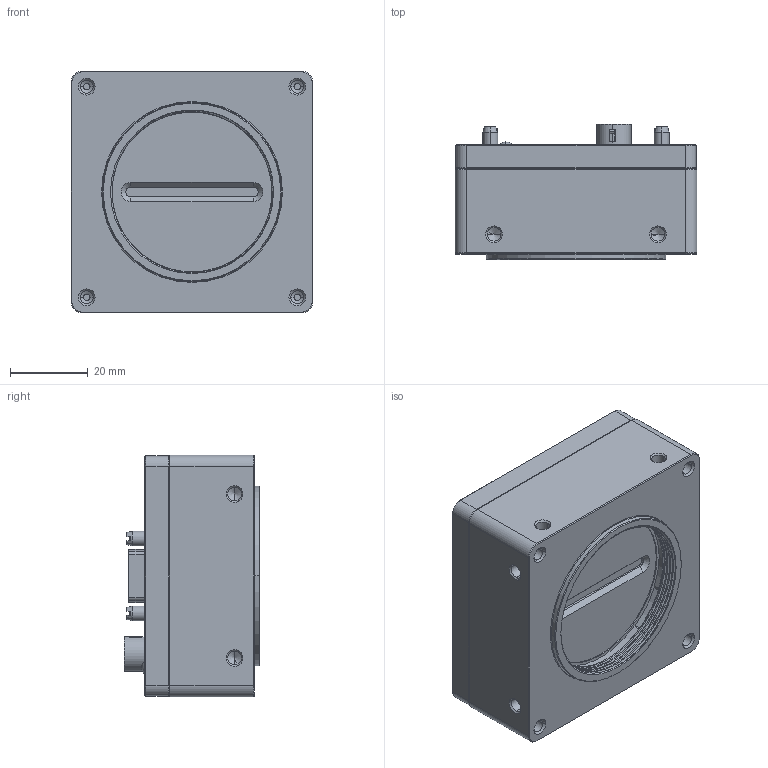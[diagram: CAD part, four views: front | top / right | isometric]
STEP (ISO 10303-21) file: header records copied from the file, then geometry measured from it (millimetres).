
FILE_DESCRIPTION((''),'2;1');
FILE_NAME('ASM0007_SW0001','2024-05-07T16:02:02',('303992'),(''),'CREO PARAMETRIC BY PTC INC, 2020184','CREO PARAMETRIC BY PTC INC, 2020184','');
FILE_SCHEMA(('CONFIG_CONTROL_DESIGN','SHAPE_APPEARANCE_LAYERS_GROUPS'));
Length unit declared in the file: millimetre
Products named in the file (1): ASM0007_SW0001
Bounding box: 62 x 34.85 x 62 mm (x, y, z)
Volume: 99415.7 mm3; surface area: 18974.9 mm2
Topology: 1 solids, 1 shells, 853 faces, 2322 edges, 1495 vertices
Faces by surface type: plane 434, cylinder 216, cone 171, torus 24, bspline 6, sphere 2
Entity records: 41411 total; most frequent: CARTESIAN_POINT 7101, ORIENTED_EDGE 4592, DIRECTION 4543, PRESENTATION_STYLE_ASSIGNMENT 3078, STYLED_ITEM 2297, CURVE_STYLE 2296, EDGE_CURVE 2296, AXIS2_PLACEMENT_3D 1573
